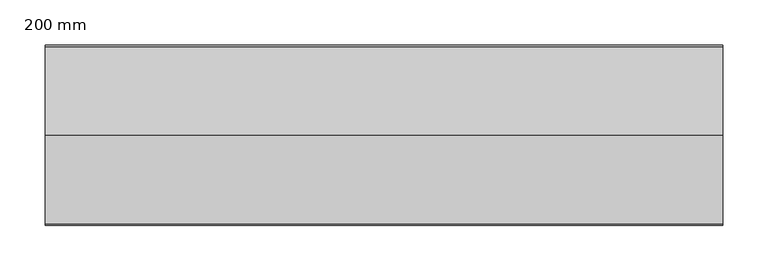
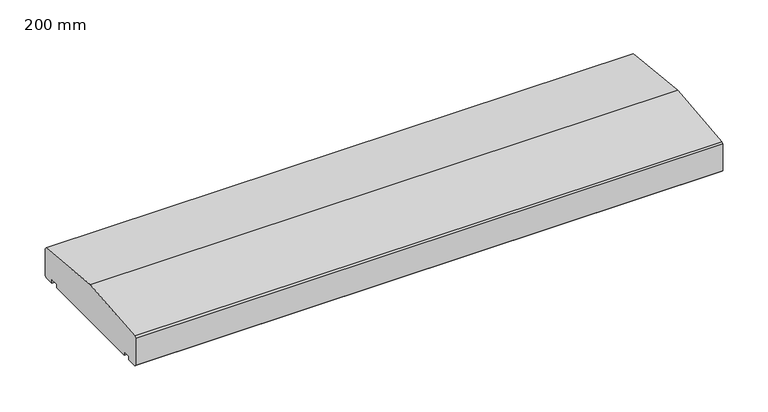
"""IFC4 building model written with IfcOpenShell, lengths in millimetres: proxy geometry, 400_35_NS_afdekker_tweezijdig_afwaterend : 200 mm."""

from ifc_helpers import new_model, si_unit, frame, origin, place, context, project, spatial, polyline, outline, extrude, source, transform, mapped, element, save


def proxy_200_mm_62d64504(model_context):
    return source(origin(), model_context, "Body", "SweptSolid", [
        extrude(outline(polyline([(200.0, 2.0), (198.0, 0.0), (185.0, 0.0), (185.0, 5.0), (175.0, 5.0), (175.0, 0.0), (25.0, 0.0), (25.0, 5.0), (15.0, 5.0), (15.0, 0.0), (2.0, 0.0), (0.0, 2.0), (0.0, 38.0), (2.0, 40.0), (100.0, 50.0), (198.0, 40.0), (200.0, 38.0), (200.0, 2.0)])), frame((-375.0, 0.0, 0.0), z_axis=(1.0, 0.0, 0.0), x_axis=(0.0, 1.0, 0.0)), (0.0, 0.0, 1.0), 750.0),
    ])


if __name__ == "__main__":
    model = new_model("IFC4")
    model_context = context("Model", 3, world=origin())
    ifc_project = project(units=[si_unit("LENGTHUNIT", "METRE", prefix="MILLI")], contexts=[model_context])
    site = spatial("IfcSite", under=ifc_project)
    building = spatial("IfcBuilding", under=site)
    placement = place(None, origin())
    proxy_200_mm_shape = proxy_200_mm_62d64504(model_context)
    element("IfcBuildingElementProxy", 1, Name="400_35_NS_afdekker_tweezijdig_afwaterend : 200 mm", ObjectType="400_35_NS_afdekker_tweezijdig_afwaterend : 200 mm", at=placement, inside=building, context=model_context, shape_type="MappedRepresentation", body=[
        mapped(proxy_200_mm_shape, transform((0.0, 0.0, 0.0), x_axis=(1.0, 0.0, 0.0), y_axis=(0.0, 1.0, 0.0), z_axis=(0.0, 0.0, 1.0))),
    ])
    save(model, "model.ifc")
